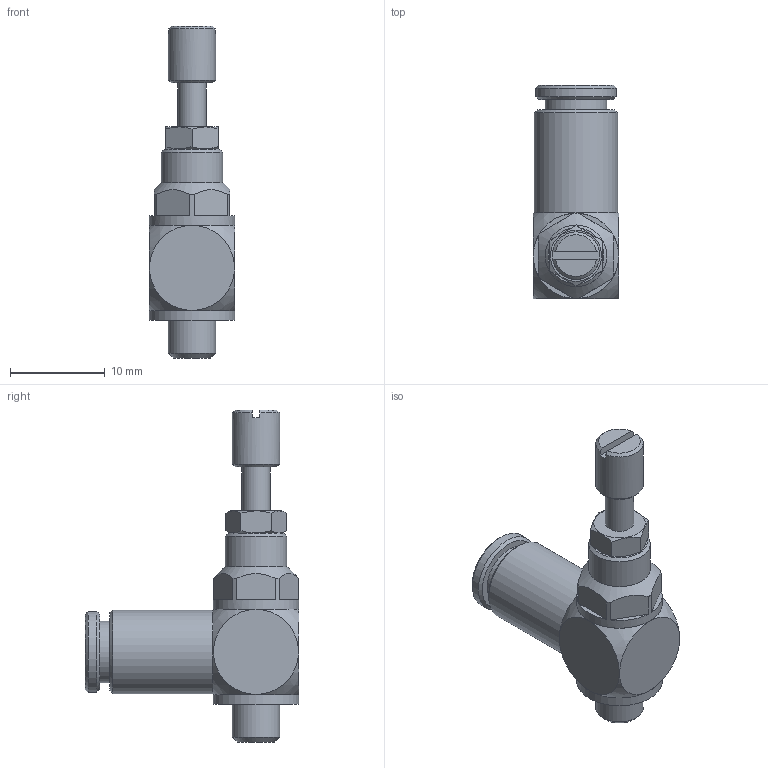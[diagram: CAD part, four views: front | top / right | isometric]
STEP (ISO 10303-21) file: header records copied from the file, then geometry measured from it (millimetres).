
FILE_DESCRIPTION(/* description */ ('MICROREG. DI FLUSSO #DIR. M5 T.4 CON POMOLO'),/* implementation_level */ '2;1');
FILE_NAME(/* name */ 'I:\Area Tecnica\Disegni\VARIE-3D\Componenti\600\6_01_###_###\6_01_45_##P.stp',/* time_stamp */ '2017-01-04T08:25:28+01:00',/* author */ ('maniean1'),/* organization */ ('Pneumax S.p.A.'),/* preprocessor_version */ 'ST-DEVELOPER v15.2',/* originating_system */ 'Autodesk Inventor 2014',/* authorisation */ '');
FILE_SCHEMA (('AUTOMOTIVE_DESIGN { 1 0 10303 214 3 1 1 }'));
Length unit declared in the file: millimetre
Products named in the file (1): 6_01_45_##P
Bounding box: 9 x 22.5 x 35 mm (x, y, z)
Volume: 2027 mm3; surface area: 1474.5 mm2
Topology: 1 solids, 1 shells, 60 faces, 132 edges, 86 vertices
Faces by surface type: plane 37, cone 12, cylinder 10, sphere 1
Full cylindrical faces by diameter (mm): 3 x1, 4 x1, 5 x2, 6.5 x2, 8.5 x1, 8.8 x1, 9 x2
Entity records: 1581 total; most frequent: CARTESIAN_POINT 289, DIRECTION 254, ORIENTED_EDGE 208, AXIS2_PLACEMENT_3D 111, EDGE_CURVE 104, EDGE_LOOP 94, VERTEX_POINT 80, ADVANCED_FACE 60
